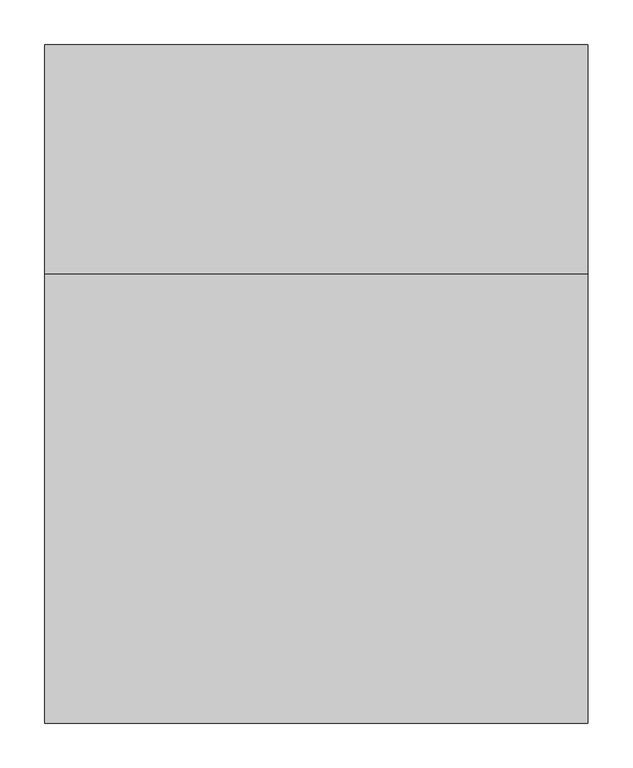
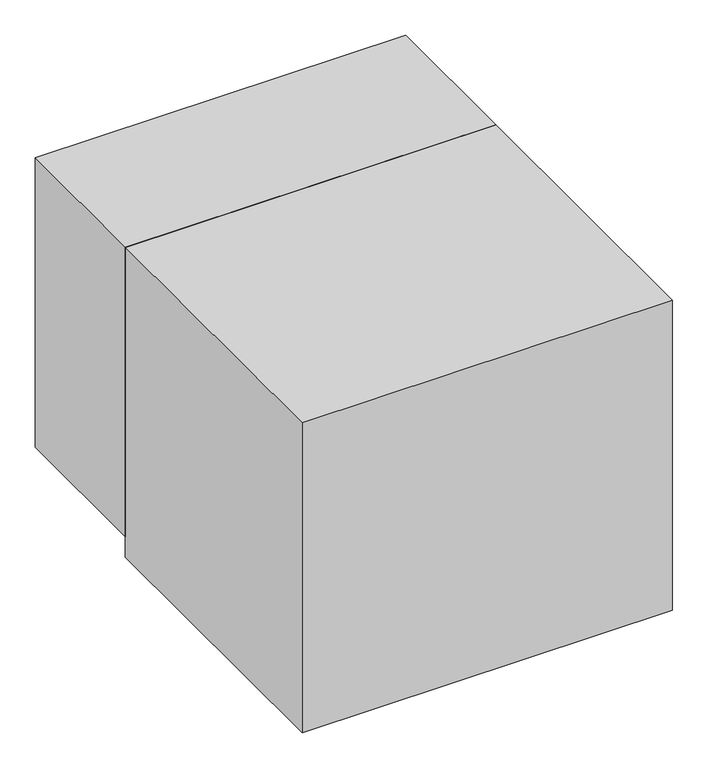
"""IFC4 building model written with IfcOpenShell, lengths in millimetres: proxy geometry, BIMHealth-Cryocompressor_Transformer-LOD2A-v1 : BIMHealth-Cryocompressor_Transformer-LOD2A-v1."""

from ifc_helpers import new_model, si_unit, point, frame, frame_2d, origin, origin_with_axes, place, context, project, spatial, polyline, circle_curve, trimmed, segment, composite_curve, outline, extrude, source, transform, mapped, element, save


def generic_models_5fabc408(model_context):
    return source(origin(), model_context, "Body", "SweptSolid", [
        extrude(outline(polyline([(107.7974978, -152.283416), (103.2662478, -154.8945939), (101.7398055, -159.6031275), (102.8605988, -163.8489208), (106.2470171, -166.7395458), (111.5474978, -167.6680314), (116.1208151, -166.8837766), (119.654469, -164.1644256), (120.9705747, -159.3507237), (119.7836757, -155.1920698), (116.0006228, -152.6680314), (116.7337959, -149.5911083), (122.1304305, -153.0676708), (124.0474978, -159.2305314), (122.5661276, -165.1439929), (118.2301901, -169.2876227), (111.5414882, -170.7449544), (104.9609594, -169.4558919), (100.279469, -165.6998823), (98.6628824, -159.2966371), (100.7993007, -152.8543294), (107.0042286, -149.2064929), (107.7974978, -152.283416)])), frame((0.0, -212.0, 0.0), z_axis=(0.0, 1.0, 0.0), x_axis=(0.0, 0.0, 1.0)), (0.0, 0.0, 1.0), 2.0),
        extrude(outline(polyline([(99.0474978, -145.3603391), (99.0474978, -142.283416), (108.5486997, -142.283416), (112.1424497, -141.7846179), (113.8251421, -140.6758439), (114.4321132, -138.9360602), (113.8011036, -136.7725987), (116.5595171, -135.7449544), (117.5090363, -138.8338968), (116.9140844, -140.7569737), (114.4501421, -142.6680314), (117.1244209, -142.6680314), (117.1244209, -145.3603391), (99.0474978, -145.3603391)])), frame((0.0, -212.0, 0.0), z_axis=(0.0, 1.0, 0.0), x_axis=(0.0, 0.0, 1.0)), (0.0, 0.0, 1.0), 2.0),
        extrude(outline(polyline([(92.1244209, -133.8218775), (91.7398055, -131.9408679), (92.4309113, -129.549041), (94.6003824, -127.7641852), (98.6148055, -126.1295698), (117.1244209, -119.8375025), (117.1244209, -123.0526468), (106.6196132, -126.6163487), (103.0679305, -127.8242814), (107.0823536, -129.0322141), (117.1244209, -132.5057718), (117.1244209, -135.7449544), (98.3684113, -129.4468775), (95.0871613, -134.2064929), (92.1244209, -133.8218775)])), frame((0.0, -212.0, 0.0), z_axis=(0.0, 1.0, 0.0), x_axis=(0.0, 0.0, 1.0)), (0.0, 0.0, 1.0), 2.0),
        extrude(outline(polyline([(108.0859594, -118.0526468), (101.0907671, -115.8200746), (98.6628824, -109.9697141), (99.7656469, -105.8020458), (102.8636036, -102.8963968), (108.3383632, -101.8988006), (115.0721372, -104.1554112), (117.5090363, -109.9697141), (115.5078344, -115.3903871), (108.0859594, -118.0526468)]), holes=[polyline([(108.091969, -114.9757237), (112.8545892, -113.5514448), (114.4321132, -109.9697141), (112.8485796, -106.4090169), (108.1881228, -104.9757237), (103.3323536, -106.4000025), (101.7398055, -109.9697141), (103.3233392, -113.5514448), (108.091969, -114.9757237)])]), frame((0.0, -212.0, 0.0), z_axis=(0.0, 1.0, 0.0), x_axis=(0.0, 0.0, 1.0)), (0.0, 0.0, 1.0), 2.0),
        extrude(outline(polyline([(105.5859594, -86.8988006), (102.6833151, -88.3741612), (101.7398055, -91.2738006), (103.2512238, -94.7864208), (108.1039882, -96.1295698), (112.9116805, -94.7563727), (114.4321132, -91.189666), (113.6598776, -88.7106996), (111.3551901, -87.283416), (111.7398055, -84.2064929), (116.0066324, -86.5352189), (117.5090363, -91.2137044), (116.4152863, -95.3994016), (113.1310315, -98.2659881), (108.0198536, -99.2064929), (101.0817526, -97.0039689), (98.6628824, -91.1716371), (100.3966565, -86.2918294), (105.201344, -83.8218775), (105.5859594, -86.8988006)])), frame((0.0, -212.0, 0.0), z_axis=(0.0, 1.0, 0.0), x_axis=(0.0, 0.0, 1.0)), (0.0, 0.0, 1.0), 2.0),
        extrude(outline(polyline([(108.0859594, -81.8988006), (101.0907671, -79.6662285), (98.6628824, -73.8158679), (99.7656469, -69.6481996), (102.8636036, -66.7425506), (108.3383632, -65.7449544), (115.0721372, -68.001565), (117.5090363, -73.8158679), (115.5078344, -79.236541), (108.0859594, -81.8988006)]), holes=[polyline([(108.091969, -78.8218775), (112.8545892, -77.3975987), (114.4321132, -73.8158679), (112.8485796, -70.2551708), (108.1881228, -68.8218775), (103.3323536, -70.2461564), (101.7398055, -73.8158679), (103.3233392, -77.3975987), (108.091969, -78.8218775)])]), frame((0.0, -212.0, 0.0), z_axis=(0.0, 1.0, 0.0), x_axis=(0.0, 0.0, 1.0)), (0.0, 0.0, 1.0), 2.0),
        extrude(outline(polyline([(108.0859594, -63.0526468), (101.0907671, -60.8200746), (98.6628824, -54.9697141), (99.7656469, -50.8020458), (102.8636036, -47.8963968), (108.3383632, -46.8988006), (115.0721372, -49.1554112), (117.5090363, -54.9697141), (115.5078344, -60.3903871), (108.0859594, -63.0526468)]), holes=[polyline([(108.091969, -59.9757237), (112.8545892, -58.5514448), (114.4321132, -54.9697141), (112.8485796, -51.4090169), (108.1881228, -49.9757237), (103.3323536, -51.4000025), (101.7398055, -54.9697141), (103.3233392, -58.5514448), (108.091969, -59.9757237)])]), frame((0.0, -212.0, 0.0), z_axis=(0.0, 1.0, 0.0), x_axis=(0.0, 0.0, 1.0)), (0.0, 0.0, 1.0), 2.0),
        extrude(outline(polyline([(-40.3603391, -212.0), (-43.4372621, -212.0), (-43.4372621, -210.0), (-40.3603391, -210.0), (-40.3603391, -212.0)])), frame((0.0, 0.0, 99.0474978), z_axis=(0.0, 0.0, 1.0), x_axis=(1.0, 0.0, 0.0)), (0.0, 0.0, 1.0), 24.6153846),
        extrude(outline(polyline([(104.4321132, -23.0887044), (102.3828344, -25.0718775), (101.7398055, -28.0887044), (103.1280267, -32.0520458), (107.1244209, -33.8218775), (107.9537478, -19.9757237), (115.0030267, -22.3104593), (117.5090363, -28.3230794), (114.9970171, -34.5129833), (107.935719, -36.8988006), (101.0997815, -34.5370218), (98.6628824, -28.1488006), (100.0751421, -22.8933919), (104.0474978, -20.0718775), (104.4321132, -23.0887044)]), holes=[polyline([(110.201344, -33.8218775), (113.2812719, -32.1241612), (114.4321132, -28.3350987), (112.9898055, -24.2846179), (110.201344, -23.0526468), (110.201344, -33.8218775)])]), frame((0.0, -212.0, 0.0), z_axis=(0.0, 1.0, 0.0), x_axis=(0.0, 0.0, 1.0)), (0.0, 0.0, 1.0), 2.0),
        extrude(outline(polyline([(99.0474978, -16.8988006), (99.0474978, -13.8218775), (108.5486997, -13.8218775), (112.1424497, -13.3230794), (113.8251421, -12.2143054), (114.4321132, -10.4745218), (113.8011036, -8.3110602), (116.5595171, -7.283416), (117.5090363, -10.3723583), (116.9140844, -12.2954352), (114.4501421, -14.2064929), (117.1244209, -14.2064929), (117.1244209, -16.8988006), (99.0474978, -16.8988006)])), frame((0.0, -212.0, 0.0), z_axis=(0.0, 1.0, 0.0), x_axis=(0.0, 0.0, 1.0)), (0.0, 0.0, 1.0), 2.0),
        extrude(outline(polyline([(99.0474978, 10.7935071), (99.0474978, 13.8704302), (120.5859594, 13.8704302), (120.5859594, 21.9473532), (123.6628824, 21.9473532), (123.6628824, 2.716584), (120.5859594, 2.716584), (120.5859594, 10.7935071), (99.0474978, 10.7935071)])), frame((0.0, -212.0, 0.0), z_axis=(0.0, 1.0, 0.0), x_axis=(0.0, 0.0, 1.0)), (0.0, 0.0, 1.0), 2.0),
        extrude(outline(polyline([(99.0474978, 25.0242763), (99.0474978, 28.1011994), (108.5486997, 28.1011994), (112.1424497, 28.5999975), (113.8251421, 29.7087715), (114.4321132, 31.4485552), (113.8011036, 33.6120167), (116.5595171, 34.6396609), (117.5090363, 31.5507186), (116.9140844, 29.6276417), (114.4501421, 27.716584), (117.1244209, 27.716584), (117.1244209, 25.0242763), (99.0474978, 25.0242763)])), frame((0.0, -212.0, 0.0), z_axis=(0.0, 1.0, 0.0), x_axis=(0.0, 0.0, 1.0)), (0.0, 0.0, 1.0), 2.0),
        extrude(outline(polyline([(101.3551901, 48.1011994), (99.0474978, 48.8704302), (99.0474978, 51.9473532), (101.6346372, 51.3343725), (106.9801901, 51.1781225), (110.8083151, 51.1781225), (113.5006228, 51.0278821), (115.5889642, 50.0843725), (116.9621613, 47.9780023), (117.5090363, 44.2490359), (116.8900459, 40.1895407), (115.1292286, 37.5092523), (112.1244209, 36.1781225), (111.7398055, 39.2550456), (113.8401661, 40.7394206), (114.4321132, 43.8524013), (113.5426901, 47.2538436), (110.5859594, 48.0831706), (109.5282671, 42.7466321), (109.0655267, 40.0843725), (108.0559113, 37.9299254), (106.2890844, 36.3824494), (103.8551901, 35.7935071), (100.123219, 37.3530023), (98.6628824, 41.8211513), (99.2698536, 45.1174254), (101.3551901, 48.1011994)]), holes=[polyline([(107.0733392, 48.092185), (104.2578344, 47.5963917), (102.4759834, 45.5891802), (101.7398055, 42.4761994), (102.4068728, 39.7868965), (106.0667286, 40.4900215), (106.5655267, 43.1372571), (107.0733392, 48.092185)])]), frame((0.0, -212.0, 0.0), z_axis=(0.0, 1.0, 0.0), x_axis=(0.0, 0.0, 1.0)), (0.0, 0.0, 1.0), 2.0),
        extrude(outline(polyline([(99.0474978, 55.4088917), (99.0474978, 58.4858148), (108.638844, 58.4858148), (113.2241805, 59.88906), (114.4321132, 63.2274013), (113.8942526, 65.3397811), (112.4549497, 66.5927859), (109.732594, 66.9473532), (99.0474978, 66.9473532), (99.0474978, 70.0242763), (110.1472574, 70.0242763), (113.1220171, 69.8620167), (115.3846372, 68.9395407), (116.9230988, 66.9563677), (117.5090363, 64.0507186), (114.6003824, 58.4858148), (117.1244209, 58.4858148), (117.1244209, 55.4088917), (99.0474978, 55.4088917)])), frame((0.0, -212.0, 0.0), z_axis=(0.0, 1.0, 0.0), x_axis=(0.0, 0.0, 1.0)), (0.0, 0.0, 1.0), 2.0),
        extrude(outline(polyline([(104.4321132, 73.1011994), (100.1172094, 75.4569686), (98.6628824, 80.8235552), (99.4170892, 84.6336513), (101.5535074, 87.2087715), (104.498219, 88.1011994), (107.1724978, 87.3409831), (108.8131228, 85.2436273), (110.2614401, 80.7274013), (112.4910074, 76.5627379), (113.8491805, 77.4461513), (114.4321132, 80.3908629), (113.8221372, 83.0981946), (112.1244209, 84.2550456), (112.5090363, 87.3319686), (115.2704546, 86.2742763), (116.9050699, 83.8944686), (117.5090363, 80.1504782), (117.1334353, 77.5032427), (116.2229786, 75.5471129), (114.4711757, 74.0386994), (112.1785074, 73.4858148), (109.6965363, 74.1739157), (107.9387238, 76.1961513), (106.4333151, 80.8295648), (105.5559113, 83.9966321), (104.1736997, 85.0242763), (102.466969, 84.0026417), (101.7398055, 80.8656225), (102.5330747, 77.6024013), (104.8167286, 76.1781225), (104.4321132, 73.1011994)])), frame((0.0, -212.0, 0.0), z_axis=(0.0, 1.0, 0.0), x_axis=(0.0, 0.0, 1.0)), (0.0, 0.0, 1.0), 2.0),
        extrude(outline(polyline([(99.0474978, 92.3319686), (99.0474978, 95.4088917), (114.0474978, 95.4088917), (114.0474978, 98.8704302), (117.1244209, 98.8704302), (118.5547094, 95.4088917), (120.4597574, 95.9768004), (120.9705747, 97.9149013), (120.826344, 99.6877379), (123.7109594, 100.138459), (124.0474978, 97.3319686), (123.3443728, 94.2310071), (121.5114401, 92.6564879), (118.9453344, 92.3319686), (117.1244209, 92.3319686), (117.1244209, 89.6396609), (114.0474978, 89.6396609), (114.0474978, 92.3319686), (99.0474978, 92.3319686)])), frame((0.0, -212.0, 0.0), z_axis=(0.0, 1.0, 0.0), x_axis=(0.0, 0.0, 1.0)), (0.0, 0.0, 1.0), 2.0),
        extrude(outline(polyline([(108.0859594, 100.7935071), (101.0907671, 103.0260792), (98.6628824, 108.8764398), (99.7656469, 113.0441081), (102.8636036, 115.9497571), (108.3383632, 116.9473532), (115.0721372, 114.6907427), (117.5090363, 108.8764398), (115.5078344, 103.4557667), (108.0859594, 100.7935071)]), holes=[polyline([(108.091969, 103.8704302), (112.8545892, 105.294709), (114.4321132, 108.8764398), (112.8485796, 112.4371369), (108.1881228, 113.8704302), (103.3323536, 112.4461513), (101.7398055, 108.8764398), (103.3233392, 105.294709), (108.091969, 103.8704302)])]), frame((0.0, -212.0, 0.0), z_axis=(0.0, 1.0, 0.0), x_axis=(0.0, 0.0, 1.0)), (0.0, 0.0, 1.0), 2.0),
        extrude(outline(polyline([(99.0474978, 120.4088917), (99.0474978, 123.4858148), (108.5486997, 123.4858148), (112.1424497, 123.9846129), (113.8251421, 125.0933869), (114.4321132, 126.8331706), (113.8011036, 128.9966321), (116.5595171, 130.0242763), (117.5090363, 126.935334), (116.9140844, 125.0122571), (114.4501421, 123.1011994), (117.1244209, 123.1011994), (117.1244209, 120.4088917), (99.0474978, 120.4088917)])), frame((0.0, -212.0, 0.0), z_axis=(0.0, 1.0, 0.0), x_axis=(0.0, 0.0, 1.0)), (0.0, 0.0, 1.0), 2.0),
        extrude(outline(polyline([(99.0474978, 131.9473532), (99.0474978, 135.0242763), (108.1640844, 135.0242763), (111.8359594, 135.4930263), (113.7710555, 137.0074494), (114.4321132, 139.2850936), (113.4405267, 141.6198292), (110.4597574, 142.3319686), (99.0474978, 142.3319686), (99.0474978, 145.4088917), (109.2518247, 145.4088917), (113.2001421, 146.6138196), (114.4321132, 149.6396609), (113.951344, 151.3974734), (112.6863199, 152.4311273), (110.1172094, 152.716584), (99.0474978, 152.716584), (99.0474978, 155.7935071), (111.4393247, 155.7935071), (116.0216565, 154.3842523), (117.5090363, 150.3608148), (113.9333151, 144.9281225), (116.5685315, 143.2334109), (117.5090363, 140.1504782), (116.5865603, 137.1396609), (114.1496613, 135.0242763), (117.1244209, 135.0242763), (117.1244209, 131.9473532), (99.0474978, 131.9473532)])), frame((0.0, -212.0, 0.0), z_axis=(0.0, 1.0, 0.0), x_axis=(0.0, 0.0, 1.0)), (0.0, 0.0, 1.0), 2.0),
        extrude(outline(polyline([(104.4321132, 173.0651417), (102.3828344, 171.0819686), (101.7398055, 168.0651417), (103.1280267, 164.1018004), (107.1244209, 162.3319686), (107.9537478, 176.1781225), (115.0030267, 173.8433869), (117.5090363, 167.8307667), (114.9970171, 161.6408629), (107.935719, 159.2550456), (101.0997815, 161.6168244), (98.6628824, 168.0050456), (100.0751421, 173.2604542), (104.0474978, 176.0819686), (104.4321132, 173.0651417)]), holes=[polyline([(110.201344, 162.3319686), (113.2812719, 164.029685), (114.4321132, 167.8187475), (112.9898055, 171.8692282), (110.201344, 173.1011994), (110.201344, 162.3319686)])]), frame((0.0, -212.0, 0.0), z_axis=(0.0, 1.0, 0.0), x_axis=(0.0, 0.0, 1.0)), (0.0, 0.0, 1.0), 2.0),
        extrude(outline(polyline([(99.0474978, 179.2550456), (99.0474978, 182.3319686), (108.5486997, 182.3319686), (112.1424497, 182.8307667), (113.8251421, 183.9395407), (114.4321132, 185.6793244), (113.8011036, 187.8427859), (116.5595171, 188.8704302), (117.5090363, 185.7814879), (116.9140844, 183.8584109), (114.4501421, 181.9473532), (117.1244209, 181.9473532), (117.1244209, 179.2550456), (99.0474978, 179.2550456)])), frame((0.0, -212.0, 0.0), z_axis=(0.0, 1.0, 0.0), x_axis=(0.0, 0.0, 1.0)), (0.0, 0.0, 1.0), 2.0),
        extrude(outline(polyline([(225.0, -210.0), (-225.0, -210.0), (-225.0, -205.0), (225.0, -205.0), (225.0, -210.0)])), frame((0.0, 0.0, 70.2172768), z_axis=(0.0, 0.0, 1.0), x_axis=(1.0, 0.0, 0.0)), (0.0, 0.0, 1.0), 80.0),
        extrude(outline(polyline([(262.0116167, -210.0), (-257.9883833, -210.0), (-257.9883833, -205.0), (262.0116167, -205.0), (262.0116167, -210.0)])), frame((0.0, 0.0, 419.7827232), z_axis=(0.0, 0.0, 1.0), x_axis=(1.0, 0.0, 0.0)), (0.0, 0.0, 1.0), 80.0),
        extrude(outline(composite_curve([segment(trimmed(circle_curve(frame_2d((-235.4918267, -150.488841)), 10.0), [point((-245.4918267, -150.488841))], [point((-225.4918267, -150.488841))], False, "CARTESIAN"), True, "CONTINUOUS"), segment(trimmed(circle_curve(frame_2d((-235.4918267, -150.488841)), 10.0), [point((-225.4918267, -150.488841))], [point((-245.4918267, -150.488841))], False, "CARTESIAN"), True, "CONTINUOUS")], self_intersect=False)), origin_with_axes(), (0.0, 0.0, 1.0), 35.0),
        extrude(outline(composite_curve([segment(trimmed(circle_curve(frame_2d((235.4918267, -150.488841)), 10.0), [point((245.4918267, -150.488841))], [point((225.4918267, -150.488841))], False, "CARTESIAN"), True, "CONTINUOUS"), segment(trimmed(circle_curve(frame_2d((235.4918267, -150.488841)), 10.0), [point((225.4918267, -150.488841))], [point((245.4918267, -150.488841))], False, "CARTESIAN"), True, "CONTINUOUS")], self_intersect=False)), origin_with_axes(), (0.0, 0.0, 1.0), 35.0),
        extrude(outline(composite_curve([segment(trimmed(circle_curve(frame_2d((-235.4918267, -4.511159)), 10.0), [point((-245.4918267, -4.511159))], [point((-225.4918267, -4.511159))], False, "CARTESIAN"), True, "CONTINUOUS"), segment(trimmed(circle_curve(frame_2d((-235.4918267, -4.511159)), 10.0), [point((-225.4918267, -4.511159))], [point((-245.4918267, -4.511159))], False, "CARTESIAN"), True, "CONTINUOUS")], self_intersect=False)), origin_with_axes(), (0.0, 0.0, 1.0), 35.0),
        extrude(outline(composite_curve([segment(trimmed(circle_curve(frame_2d((235.4918267, -4.511159)), 10.0), [point((245.4918267, -4.511159))], [point((225.4918267, -4.511159))], False, "CARTESIAN"), True, "CONTINUOUS"), segment(trimmed(circle_curve(frame_2d((235.4918267, -4.511159)), 10.0), [point((225.4918267, -4.511159))], [point((245.4918267, -4.511159))], False, "CARTESIAN"), True, "CONTINUOUS")], self_intersect=False)), origin_with_axes(), (0.0, 0.0, 1.0), 35.0),
        extrude(outline(polyline([(302.5, -205.0), (-302.5, -205.0), (-302.5, 50.0), (302.5, 50.0), (302.5, -205.0)])), frame((0.0, 0.0, 35.0), z_axis=(0.0, 0.0, 1.0), x_axis=(1.0, 0.0, 0.0)), (0.0, 0.0, 1.0), 500.0),
        extrude(outline(polyline([(-302.5, -705.0), (-302.5, -205.0), (302.5, -205.0), (302.5, -705.0), (-302.5, -705.0)])), origin_with_axes(), (0.0, 0.0, 1.0), 535.0),
    ])


if __name__ == "__main__":
    model = new_model("IFC4")
    model_context = context("Model", 3, world=origin())
    ifc_project = project(units=[si_unit("LENGTHUNIT", "METRE", prefix="MILLI")], contexts=[model_context])
    site = spatial("IfcSite", under=ifc_project)
    building = spatial("IfcBuilding", under=site)
    placement = place(None, origin())
    generic_models_shape = generic_models_5fabc408(model_context)
    element("IfcBuildingElementProxy", 1, Name="BIMHealth-Cryocompressor_Transformer-LOD2A-v1 : BIMHealth-Cryocompressor_Transformer-LOD2A-v1", ObjectType="BIMHealth-Cryocompressor_Transformer-LOD2A-v1 : BIMHealth-Cryocompressor_Transformer-LOD2A-v1", at=placement, inside=building, context=model_context, shape_type="MappedRepresentation", body=[
        mapped(generic_models_shape, transform((0.0, 0.0, 0.0), x_axis=(1.0, 0.0, 0.0), y_axis=(0.0, 1.0, 0.0), z_axis=(0.0, 0.0, 1.0))),
    ])
    save(model, "model.ifc")
